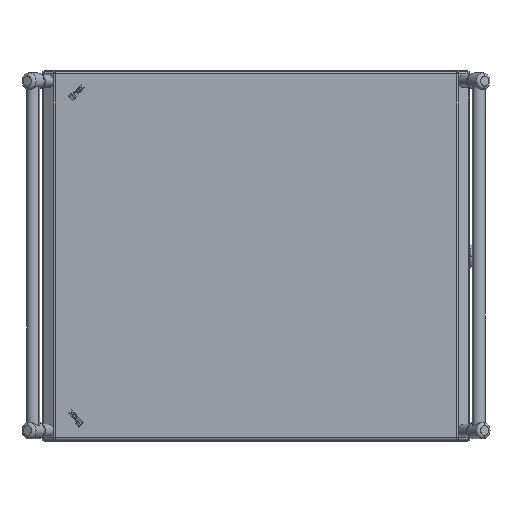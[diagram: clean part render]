
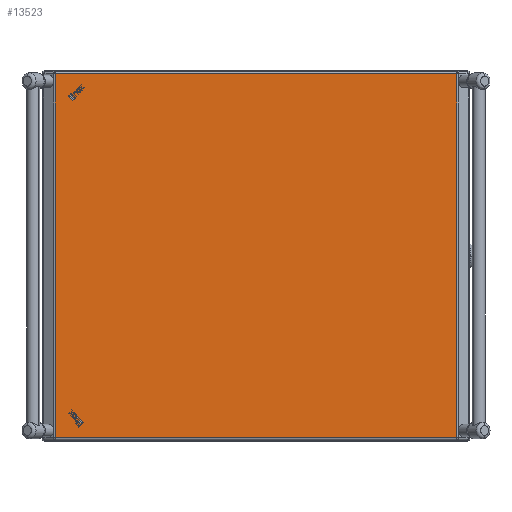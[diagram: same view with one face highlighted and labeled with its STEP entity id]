
A CAD part, top view. The second image highlights one B-rep face of the part: STEP entity #13523.
In plain terms, the highlighted planar face has unit normal (0, 0, 1).
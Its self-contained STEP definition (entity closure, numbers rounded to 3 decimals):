
#1066 = LINE ( 'NONE', #19662, #19856 ) ;
#2504 = CARTESIAN_POINT ( 'NONE',  ( 244.294, 221.35, 26.5 ) ) ;
#2663 = EDGE_CURVE ( 'NONE', #22411, #9207, #4155, .T. ) ;
#4155 = LINE ( 'NONE', #9320, #22886 ) ;
#5002 = VERTEX_POINT ( 'NONE', #2504 ) ;
#6222 = FACE_OUTER_BOUND ( 'NONE', #11848, .T. ) ;
#6545 = DIRECTION ( 'NONE',  ( 0., 0., 1. ) ) ;
#8015 = CARTESIAN_POINT ( 'NONE',  ( -245.25, 221.35, 26.5 ) ) ;
#8506 = CARTESIAN_POINT ( 'NONE',  ( 244.294, -221.35, 26.5 ) ) ;
#8972 = PLANE ( 'NONE',  #20327 ) ;
#8999 = ORIENTED_EDGE ( 'NONE', *, *, #2663, .T. ) ;
#9207 = VERTEX_POINT ( 'NONE', #31242 ) ;
#9320 = CARTESIAN_POINT ( 'NONE',  ( -244.294, -224.35, 26.5 ) ) ;
#9653 = CARTESIAN_POINT ( 'NONE',  ( -244.294, 221.35, 26.5 ) ) ;
#11279 = ORIENTED_EDGE ( 'NONE', *, *, #12520, .T. ) ;
#11307 = CARTESIAN_POINT ( 'NONE',  ( 244.294, -224.35, 26.5 ) ) ;
#11665 = VECTOR ( 'NONE', #18210, 1000. ) ;
#11848 = EDGE_LOOP ( 'NONE', ( #8999, #19090, #11279, #13577 ) ) ;
#12520 = EDGE_CURVE ( 'NONE', #18233, #5002, #18733, .T. ) ;
#12563 = DIRECTION ( 'NONE',  ( 0., -1., 0. ) ) ;
#13523 = ADVANCED_FACE ( 'NONE', ( #6222 ), #8972, .T. ) ;
#13577 = ORIENTED_EDGE ( 'NONE', *, *, #16685, .T. ) ;
#15781 = LINE ( 'NONE', #8015, #11665 ) ;
#15782 = EDGE_CURVE ( 'NONE', #9207, #18233, #1066, .T. ) ;
#16685 = EDGE_CURVE ( 'NONE', #5002, #22411, #15781, .T. ) ;
#18210 = DIRECTION ( 'NONE',  ( -1., 0., 0. ) ) ;
#18233 = VERTEX_POINT ( 'NONE', #8506 ) ;
#18634 = VECTOR ( 'NONE', #29225, 1000. ) ;
#18733 = LINE ( 'NONE', #11307, #18634 ) ;
#19090 = ORIENTED_EDGE ( 'NONE', *, *, #15782, .T. ) ;
#19161 = DIRECTION ( 'NONE',  ( 1., 0., 0. ) ) ;
#19503 = CARTESIAN_POINT ( 'NONE',  ( 259.35, -224.35, 26.5 ) ) ;
#19662 = CARTESIAN_POINT ( 'NONE',  ( 245.25, -221.35, 26.5 ) ) ;
#19856 = VECTOR ( 'NONE', #19161, 1000. ) ;
#20327 = AXIS2_PLACEMENT_3D ( 'NONE', #19503, #6545, #25009 ) ;
#22411 = VERTEX_POINT ( 'NONE', #9653 ) ;
#22886 = VECTOR ( 'NONE', #12563, 1000. ) ;
#25009 = DIRECTION ( 'NONE',  ( 1., 0., 0. ) ) ;
#29225 = DIRECTION ( 'NONE',  ( 0., 1., 0. ) ) ;
#31242 = CARTESIAN_POINT ( 'NONE',  ( -244.294, -221.35, 26.5 ) ) ;
